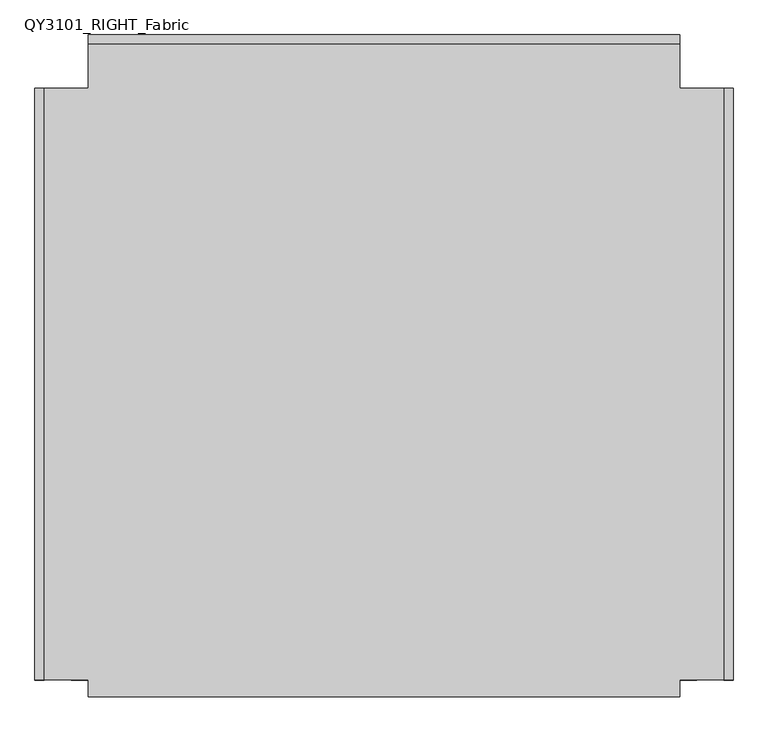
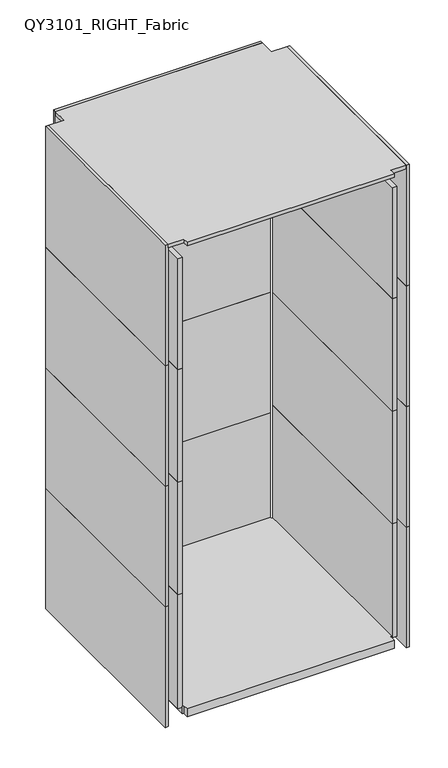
"""IFC4 building model written with IfcOpenShell, lengths in millimetres: furniture geometry, Qyos_100 : QY3101_RIGHT_Fabric."""

from ifc_helpers import new_model, si_unit, point, frame, frame_2d, origin, origin_with_axes, place, context, project, spatial, polyline, circle_curve, ellipse_curve, trimmed, segment, composite_curve, outline, extrude, source, transform, mapped, element, save
from ifc_brep_helpers import plane_surface, revolved_surface, advanced_brep


def qy3101_right_fabric_08988c61(model_context):
    return source(origin(), model_context, "Body", "SolidModel", [
        advanced_brep(
        [(-389.0102872, 400.0, 7.0), (-366.9897128, 400.0, 7.0), (-378.0, 400.0, 7.0), (-390.853369, 400.0, 8.8430818), (-365.146631, 400.0, 8.8430818), (-393.1395917, 400.0, 37.8922955), (-362.8604083, 400.0, 37.8922955), (-397.5075531, 400.0, 42.2602568), (-358.4924469, 400.0, 42.2602568), (-378.0, 400.0, 42.2602568)],
        [
            (0, 1, circle_curve(frame((-378.0, 400.0, 7.0), z_axis=(0.0, 0.0, -1.0), x_axis=(1.0, 0.0, 0.0)), 11.0102872)),
            (1, 2),
            (2, 0),
            (1, 0, circle_curve(frame((-378.0, 400.0, 7.0), z_axis=(0.0, 0.0, -1.0), x_axis=(1.0, 0.0, 0.0)), 11.0102872)),
            (3, 4, circle_curve(frame((-378.0, 400.0, 8.8430818), z_axis=(0.0, 0.0, -1.0), x_axis=(1.0, 0.0, 0.0)), 12.853369)),
            (4, 1, circle_curve(frame((-366.9897128, 400.0, 8.8430818), z_axis=(0.0, 1.0, 0.0), x_axis=(1.0, 0.0, 0.0)), 1.8430818)),
            (0, 3, circle_curve(frame((-389.0102872, 400.0, 8.8430818), z_axis=(0.0, 1.0, 0.0), x_axis=(-1.0, 0.0, 0.0)), 1.8430818)),
            (4, 3, circle_curve(frame((-378.0, 400.0, 8.8430818), z_axis=(0.0, 0.0, -1.0), x_axis=(1.0, 0.0, 0.0)), 12.853369)),
            (5, 6, circle_curve(frame((-378.0, 400.0, 37.8922955), z_axis=(0.0, 0.0, -1.0), x_axis=(1.0, 0.0, 0.0)), 15.1395917)),
            (6, 4),
            (3, 5),
            (6, 5, circle_curve(frame((-378.0, 400.0, 37.8922955), z_axis=(0.0, 0.0, -1.0), x_axis=(1.0, 0.0, 0.0)), 15.1395917)),
            (7, 8, circle_curve(frame((-378.0, 400.0, 42.2602568), z_axis=(0.0, 0.0, -1.0), x_axis=(1.0, 0.0, 0.0)), 19.5075531)),
            (8, 6, circle_curve(frame((-358.4924469, 400.0, 37.8922955), z_axis=(0.0, -1.0, 0.0), x_axis=(1.0, 0.0, 0.0)), 4.3679613)),
            (5, 7, circle_curve(frame((-397.5075531, 400.0, 37.8922955), z_axis=(0.0, -1.0, 0.0), x_axis=(-1.0, 0.0, 0.0)), 4.3679613)),
            (8, 7, circle_curve(frame((-378.0, 400.0, 42.2602568), z_axis=(0.0, 0.0, -1.0), x_axis=(1.0, 0.0, 0.0)), 19.5075531)),
            (9, 8),
            (7, 9),
        ],
        [
            plane_surface(frame((-378.0, 400.0, 7.0), z_axis=(0.0, 0.0, -1.0), x_axis=(1.0, 0.0, 0.0))),
            revolved_surface(trimmed(ellipse_curve(frame((-366.9897128, 400.0, 8.8430818), z_axis=(0.0, -1.0, 0.0), x_axis=(1.0, 0.0, 0.0)), 1.8430818, 1.8430818), [point((-366.9897128, 400.0, 7.0))], [point((-365.146631, 400.0, 8.8430818))], True, "CARTESIAN"), (-378.0, 400.0, 1997.4144888), (0.0, 0.0, 1.0)),
            revolved_surface(polyline([(-365.146631, 400.0, 8.8430818), (-362.8604083, 400.0, 37.8922955)]), (-378.0, 400.0, 1997.4144888), (0.0, 0.0, 1.0)),
            revolved_surface(trimmed(ellipse_curve(frame((-358.4924469, 400.0, 37.8922955), z_axis=(0.0, 1.0, 0.0), x_axis=(1.0, 0.0, 0.0)), 4.3679613, 4.3679613), [point((-362.8604083, 400.0, 37.8922955))], [point((-358.4924469, 400.0, 42.2602568))], True, "CARTESIAN"), (-378.0, 400.0, 1997.4144888), (0.0, 0.0, 1.0)),
            plane_surface(frame((-378.0, 400.0, 42.2602568), z_axis=(0.0, 0.0, 1.0), x_axis=(1.0, 0.0, 0.0))),
        ],
        [
            (0, [[1, 2, 3]]),
            (0, [[4, -3, -2]]),
            (1, [[5, 6, -1, 7]]),
            (1, [[8, -7, -4, -6]]),
            (2, [[9, 10, -5, 11]]),
            (2, [[12, -11, -8, -10]]),
            (3, [[13, 14, -9, 15]]),
            (3, [[16, -15, -12, -14]]),
            (4, [[17, -13, 18]]),
            (4, [[-18, -16, -17]]),
        ],
    ),
        extrude(outline(composite_curve([segment(trimmed(circle_curve(frame_2d((-378.0, 400.0)), 23.1414644), [point((-401.1414644, 400.0))], [point((-354.8585356, 400.0))], False, "CARTESIAN"), True, "CONTINUOUS"), segment(trimmed(circle_curve(frame_2d((-378.0, 400.0)), 23.1414644), [point((-354.8585356, 400.0))], [point((-401.1414644, 400.0))], False, "CARTESIAN"), True, "CONTINUOUS")], self_intersect=False)), origin_with_axes(), (0.0, 0.0, 1.0), 7.0),
        extrude(outline(composite_curve([segment(trimmed(circle_curve(frame_2d((-336.5, 432.5)), 10.0), [point((-336.5, 442.5))], [point((-326.5, 432.5))], False, "CARTESIAN"), True, "CONTINUOUS"), segment(polyline([(-326.5, 432.5), (-326.5, 367.5)]), True, "CONTINUOUS"), segment(trimmed(circle_curve(frame_2d((-336.5, 367.5)), 10.0), [point((-326.5, 367.5))], [point((-336.5, 357.5))], False, "CARTESIAN"), True, "CONTINUOUS"), segment(polyline([(-336.5, 357.5), (-419.5, 357.5)]), True, "CONTINUOUS"), segment(trimmed(circle_curve(frame_2d((-419.5, 367.5)), 10.0), [point((-419.5, 357.5))], [point((-429.5, 367.5))], False, "CARTESIAN"), True, "CONTINUOUS"), segment(polyline([(-429.5, 367.5), (-429.5, 432.5)]), True, "CONTINUOUS"), segment(trimmed(circle_curve(frame_2d((-419.5, 432.5)), 10.0), [point((-429.5, 432.5))], [point((-419.5, 442.5))], False, "CARTESIAN"), True, "CONTINUOUS"), segment(polyline([(-419.5, 442.5), (-336.5, 442.5)]), True, "CONTINUOUS")], self_intersect=False)), frame((0.0, 0.0, 42.2602568), z_axis=(0.0, 0.0, 1.0), x_axis=(1.0, 0.0, 0.0)), (0.0, 0.0, 1.0), 4.7397432),
        extrude(outline(composite_curve([segment(trimmed(circle_curve(frame_2d((320.0, 17.6301284)), 17.6301284), [point((302.3698716, 17.6301284))], [point((337.6301284, 17.6301284))], False, "CARTESIAN"), True, "CONTINUOUS"), segment(trimmed(circle_curve(frame_2d((320.0, 17.6301284)), 17.6301284), [point((337.6301284, 17.6301284))], [point((302.3698716, 17.6301284))], False, "CARTESIAN"), True, "CONTINUOUS")], self_intersect=False)), frame((-418.4669948, 0.0, 0.0), z_axis=(1.0, 0.0, 0.0), x_axis=(0.0, 1.0, 0.0)), (0.0, 0.0, 1.0), 26.9339897),
        extrude(outline(composite_curve([segment(trimmed(circle_curve(frame_2d((-405.0, 320.0)), 20.0), [point((-425.0, 320.0))], [point((-385.0, 320.0))], False, "CARTESIAN"), True, "CONTINUOUS"), segment(trimmed(circle_curve(frame_2d((-405.0, 320.0)), 20.0), [point((-385.0, 320.0))], [point((-425.0, 320.0))], False, "CARTESIAN"), True, "CONTINUOUS")], self_intersect=False)), frame((0.0, 0.0, 35.2602568), z_axis=(0.0, 0.0, 1.0), x_axis=(1.0, 0.0, 0.0)), (0.0, 0.0, 1.0), 7.0),
        extrude(outline(polyline([(-435.0, 290.0), (-435.0, 350.0), (-375.0, 350.0), (-375.0, 290.0), (-435.0, 290.0)])), frame((0.0, 0.0, 42.2602568), z_axis=(0.0, 0.0, 1.0), x_axis=(1.0, 0.0, 0.0)), (0.0, 0.0, 1.0), 4.7397432),
        extrude(outline(polyline([(445.0, 511.0), (445.0, 445.0), (511.0, 445.0), (511.0, -445.0), (445.0, -445.0), (445.0, -469.9956819), (-445.0, -469.9956819), (-445.0, -445.0), (-511.0, -445.0), (-511.0, 445.0), (-445.0, 445.0), (-445.0, 511.0), (445.0, 511.0)])), frame((0.0, 0.0, 2186.1), z_axis=(0.0, 0.0, 1.0), x_axis=(1.0, 0.0, 0.0)), (0.0, 0.0, 1.0), 16.0),
        extrude(outline(polyline([(-445.0, 511.0), (-445.0, 525.0), (445.0, 525.0), (445.0, 511.0), (-445.0, 511.0)])), frame((0.0, 0.0, 1654.0116287), z_axis=(0.0, 0.0, 1.0), x_axis=(1.0, 0.0, 0.0)), (0.0, 0.0, 1.0), 548.0883713),
        extrude(outline(polyline([(-445.0, 511.0), (-445.0, 525.0), (445.0, 525.0), (445.0, 511.0), (-445.0, 511.0)])), frame((0.0, 0.0, 1106.0116287), z_axis=(0.0, 0.0, 1.0), x_axis=(1.0, 0.0, 0.0)), (0.0, 0.0, 1.0), 548.0),
        extrude(outline(polyline([(-445.0, 511.0), (-445.0, 525.0), (445.0, 525.0), (445.0, 511.0), (-445.0, 511.0)])), frame((0.0, 0.0, 558.0116287), z_axis=(0.0, 0.0, 1.0), x_axis=(1.0, 0.0, 0.0)), (0.0, 0.0, 1.0), 548.0),
        extrude(outline(polyline([(-445.0, 511.0), (-445.0, 525.0), (445.0, 525.0), (445.0, 511.0), (-445.0, 511.0)])), frame((0.0, 0.0, 10.0), z_axis=(0.0, 0.0, 1.0), x_axis=(1.0, 0.0, 0.0)), (0.0, 0.0, 1.0), 548.0116287),
        extrude(outline(polyline([(445.0, 470.0), (445.0, 451.0), (-445.0, 451.0), (-445.0, 470.0), (445.0, 470.0)])), frame((0.0, 0.0, 1617.9823403), z_axis=(0.0, 0.0, 1.0), x_axis=(1.0, 0.0, 0.0)), (0.0, 0.0, 1.0), 504.1176597),
        extrude(outline(polyline([(445.0, 470.0), (445.0, 451.0), (-445.0, 451.0), (-445.0, 470.0), (445.0, 470.0)])), frame((0.0, 0.0, 1106.0116287), z_axis=(0.0, 0.0, 1.0), x_axis=(1.0, 0.0, 0.0)), (0.0, 0.0, 1.0), 511.9707116),
        extrude(outline(polyline([(445.0, 470.0), (445.0, 451.0), (-445.0, 451.0), (-445.0, 470.0), (445.0, 470.0)])), frame((0.0, 0.0, 558.0116287), z_axis=(0.0, 0.0, 1.0), x_axis=(1.0, 0.0, 0.0)), (0.0, 0.0, 1.0), 548.0),
        extrude(outline(polyline([(445.0, 470.0), (445.0, 451.0), (-445.0, 451.0), (-445.0, 470.0), (445.0, 470.0)])), frame((0.0, 0.0, 82.0), z_axis=(0.0, 0.0, 1.0), x_axis=(1.0, 0.0, 0.0)), (0.0, 0.0, 1.0), 476.0116287),
        extrude(outline(polyline([(-525.0, -445.0), (-525.0, 445.0), (-511.0, 445.0), (-511.0, -445.0), (-525.0, -445.0)])), frame((0.0, 0.0, 1654.0116287), z_axis=(0.0, 0.0, 1.0), x_axis=(1.0, 0.0, 0.0)), (0.0, 0.0, 1.0), 548.0883713),
        extrude(outline(polyline([(525.0, -445.0), (511.0, -445.0), (511.0, 445.0), (525.0, 445.0), (525.0, -445.0)])), frame((0.0, 0.0, 1654.0116287), z_axis=(0.0, 0.0, 1.0), x_axis=(1.0, 0.0, 0.0)), (0.0, 0.0, 1.0), 548.0883713),
        extrude(outline(polyline([(-451.0, 445.0), (-445.0, 445.0), (-445.0, 470.0), (445.0, 470.0), (445.0, 445.0), (451.0, 445.0), (451.0, -445.0), (445.0, -445.0), (445.0, -469.9956819), (-445.0, -469.9956819), (-445.0, -445.0), (-451.0, -445.0), (-451.0, 445.0)])), frame((0.0, 0.0, 47.0), z_axis=(0.0, 0.0, 1.0), x_axis=(1.0, 0.0, 0.0)), (0.0, 0.0, 1.0), 35.0),
        extrude(outline(polyline([(470.0, -444.9498873), (451.0, -444.9498873), (451.0, 445.0024364), (470.0, 445.0024364), (470.0, -444.9498873)])), frame((0.0, 0.0, 1617.9823403), z_axis=(0.0, 0.0, 1.0), x_axis=(1.0, 0.0, 0.0)), (0.0, 0.0, 1.0), 504.1176597),
        extrude(outline(polyline([(-470.0, -445.0), (-470.0, 445.0), (-451.0, 445.0), (-451.0, -445.0), (-470.0, -445.0)])), frame((0.0, 0.0, 1617.9823403), z_axis=(0.0, 0.0, 1.0), x_axis=(1.0, 0.0, 0.0)), (0.0, 0.0, 1.0), 504.1176597),
        extrude(outline(polyline([(470.0, -445.0), (451.0, -445.0), (451.0, 445.0), (470.0, 445.0), (470.0, -445.0)])), frame((0.0, 0.0, 1106.0116287), z_axis=(0.0, 0.0, 1.0), x_axis=(1.0, 0.0, 0.0)), (0.0, 0.0, 1.0), 511.9707116),
        extrude(outline(polyline([(-470.0, -445.0), (-470.0, 445.0), (-451.0, 445.0), (-451.0, -445.0), (-470.0, -445.0)])), frame((0.0, 0.0, 1106.0116287), z_axis=(0.0, 0.0, 1.0), x_axis=(1.0, 0.0, 0.0)), (0.0, 0.0, 1.0), 511.9707116),
        extrude(outline(polyline([(470.0, -445.0), (451.0, -445.0), (451.0, 445.0), (470.0, 445.0), (470.0, -445.0)])), frame((0.0, 0.0, 593.9823403), z_axis=(0.0, 0.0, 1.0), x_axis=(1.0, 0.0, 0.0)), (0.0, 0.0, 1.0), 512.0292884),
        extrude(outline(polyline([(-470.0, -445.0), (-470.0, 445.0), (-451.0, 445.0), (-451.0, -445.0), (-470.0, -445.0)])), frame((0.0, 0.0, 593.9823403), z_axis=(0.0, 0.0, 1.0), x_axis=(1.0, 0.0, 0.0)), (0.0, 0.0, 1.0), 512.0292884),
        extrude(outline(polyline([(470.0, -445.0), (451.0, -445.0), (451.0, 445.0), (470.0, 445.0), (470.0, -445.0)])), frame((0.0, 0.0, 77.0), z_axis=(0.0, 0.0, 1.0), x_axis=(1.0, 0.0, 0.0)), (0.0, 0.0, 1.0), 516.9823403),
        extrude(outline(polyline([(-470.0, -445.0), (-470.0, 445.0), (-451.0, 445.0), (-451.0, -445.0), (-470.0, -445.0)])), frame((0.0, 0.0, 77.0), z_axis=(0.0, 0.0, 1.0), x_axis=(1.0, 0.0, 0.0)), (0.0, 0.0, 1.0), 516.9823403),
        extrude(outline(polyline([(-525.0, -445.0), (-525.0, 445.0), (-511.0, 445.0), (-511.0, -445.0), (-525.0, -445.0)])), frame((0.0, 0.0, 1106.0116287), z_axis=(0.0, 0.0, 1.0), x_axis=(1.0, 0.0, 0.0)), (0.0, 0.0, 1.0), 548.0),
        extrude(outline(polyline([(525.0, -445.0), (511.0, -445.0), (511.0, 445.0), (525.0, 445.0), (525.0, -445.0)])), frame((0.0, 0.0, 1106.0116287), z_axis=(0.0, 0.0, 1.0), x_axis=(1.0, 0.0, 0.0)), (0.0, 0.0, 1.0), 548.0),
        extrude(outline(polyline([(-525.0, -445.0), (-525.0, 445.0), (-511.0, 445.0), (-511.0, -445.0), (-525.0, -445.0)])), frame((0.0, 0.0, 558.0116287), z_axis=(0.0, 0.0, 1.0), x_axis=(1.0, 0.0, 0.0)), (0.0, 0.0, 1.0), 548.0),
        extrude(outline(polyline([(525.0, -445.0), (511.0, -445.0), (511.0, 445.0), (525.0, 445.0), (525.0, -445.0)])), frame((0.0, 0.0, 558.0116287), z_axis=(0.0, 0.0, 1.0), x_axis=(1.0, 0.0, 0.0)), (0.0, 0.0, 1.0), 548.0),
        extrude(outline(polyline([(-525.0, -445.0), (-525.0, 445.0), (-511.0, 445.0), (-511.0, -445.0), (-525.0, -445.0)])), frame((0.0, 0.0, 10.0), z_axis=(0.0, 0.0, 1.0), x_axis=(1.0, 0.0, 0.0)), (0.0, 0.0, 1.0), 548.0116287),
        extrude(outline(polyline([(525.0, -445.0), (511.0, -445.0), (511.0, 445.0), (525.0, 445.0), (525.0, -445.0)])), frame((0.0, 0.0, 10.0), z_axis=(0.0, 0.0, 1.0), x_axis=(1.0, 0.0, 0.0)), (0.0, 0.0, 1.0), 548.0116287),
    ])


if __name__ == "__main__":
    model = new_model("IFC4")
    model_context = context("Model", 3, world=origin())
    ifc_project = project(units=[si_unit("LENGTHUNIT", "METRE", prefix="MILLI")], contexts=[model_context])
    site = spatial("IfcSite", under=ifc_project)
    building = spatial("IfcBuilding", under=site)
    placement = place(None, origin())
    qy3101_right_fabric_shape = qy3101_right_fabric_08988c61(model_context)
    element("IfcFurniture", 1, ObjectType="Qyos_100 : QY3101_RIGHT_Fabric", at=placement, inside=building, context=model_context, shape_type="MappedRepresentation", body=[
        mapped(qy3101_right_fabric_shape, transform((0.0, 0.0, 0.0), x_axis=(1.0, 0.0, 0.0), y_axis=(0.0, 1.0, 0.0), z_axis=(0.0, 0.0, 1.0))),
    ])
    save(model, "model.ifc")
